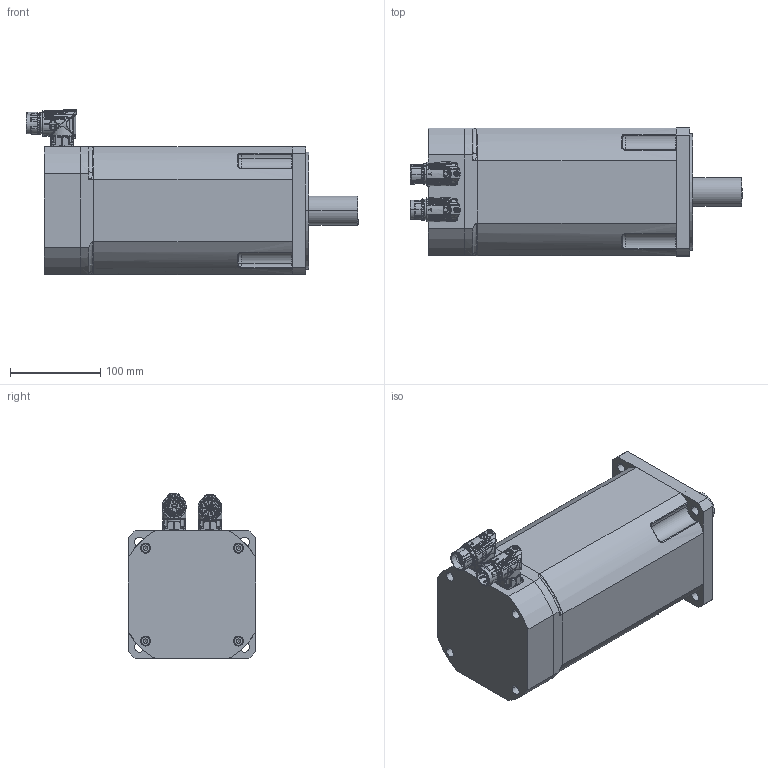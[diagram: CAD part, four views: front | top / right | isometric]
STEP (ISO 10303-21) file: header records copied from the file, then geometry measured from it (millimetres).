
FILE_DESCRIPTION(('CATIA V5 STEP Exchange'),'2;1');
FILE_NAME('C:\Documents and Settings\max\Documenti\sangallimotori\3d step\tg5\motore_DSM5_52_Freno.stp','2010-12-12T18:55:48+00:00',('none'),('none'),'CATIA Version 5 Release 10 (IN-8)','CATIA V5 STEP AP203',' none');
FILE_SCHEMA(('CONFIG_CONTROL_DESIGN'));
Assembly tree (27 placements, depth 0):
Bounding box: 368.81 x 142 x 183.43 mm (x, y, z)
Volume: 5333325.7 mm3; surface area: 342418.4 mm2
Topology: 23 solids, 28 shells, 4112 faces, 13934 edges, 9842 vertices
Faces by surface type: cylinder 1486, bspline 1334, plane 590, torus 360, cone 233, sphere 109
Entity records: 255963 total; most frequent: CARTESIAN_POINT 165446, ORIENTED_EDGE 25592, EDGE_CURVE 12853, VERTEX_POINT 9238, DIRECTION 8836, B_SPLINE_CURVE_WITH_KNOTS 7940, AXIS2_PLACEMENT_3D 4425, EDGE_LOOP 3856
